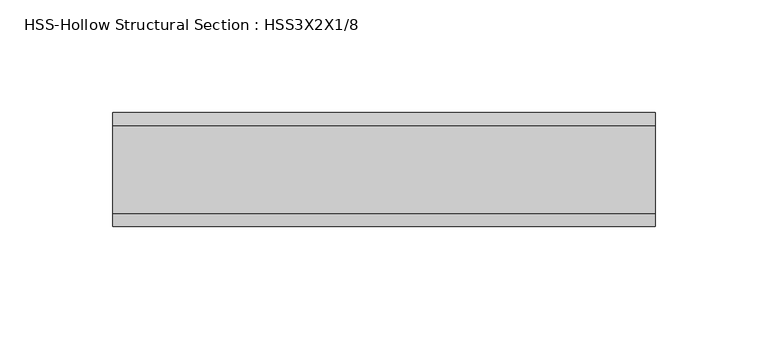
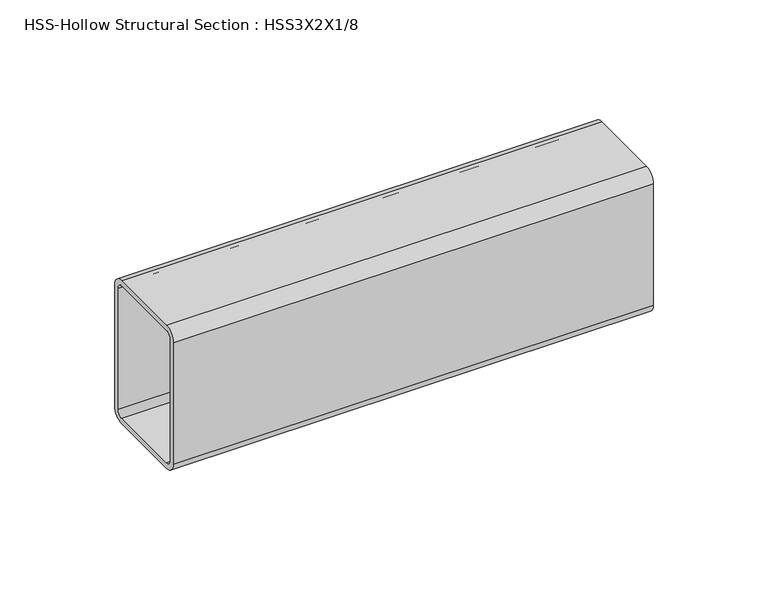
"""IFC4 building model written with IfcOpenShell, lengths in millimetres: beam geometry, HSS-Hollow Structural Section : HSS3X2X1/8."""

from ifc_helpers import new_model, si_unit, point, frame, frame_2d, origin, place, context, project, spatial, polyline, circle_curve, trimmed, segment, composite_curve, outline, extrude, source, transform, mapped, element, save


def hss_hollow_structural_section_hss3x2x1_8_a59be2b4(model_context):
    return source(origin(), model_context, "Body", "SweptSolid", [
        extrude(outline(composite_curve([segment(polyline([(25.4, 32.2072), (25.4, -32.2072)]), True, "CONTINUOUS"), segment(trimmed(circle_curve(frame_2d((19.5072, -32.2072)), 5.8928), [point((25.4, -32.2072))], [point((19.5072, -38.1))], False, "CARTESIAN"), True, "CONTINUOUS"), segment(polyline([(19.5072, -38.1), (-19.5072, -38.1)]), True, "CONTINUOUS"), segment(trimmed(circle_curve(frame_2d((-19.5072, -32.2072)), 5.8928), [point((-19.5072, -38.1))], [point((-25.4, -32.2072))], False, "CARTESIAN"), True, "CONTINUOUS"), segment(polyline([(-25.4, -32.2072), (-25.4, 32.2072)]), True, "CONTINUOUS"), segment(trimmed(circle_curve(frame_2d((-19.5072, 32.2072)), 5.8928), [point((-25.4, 32.2072))], [point((-19.5072, 38.1))], False, "CARTESIAN"), True, "CONTINUOUS"), segment(polyline([(-19.5072, 38.1), (19.5072, 38.1)]), True, "CONTINUOUS"), segment(trimmed(circle_curve(frame_2d((19.5072, 32.2072)), 5.8928), [point((19.5072, 38.1))], [point((25.4, 32.2072))], False, "CARTESIAN"), True, "CONTINUOUS")], self_intersect=False), holes=[composite_curve([segment(trimmed(circle_curve(frame_2d((-19.5072, 32.2072)), 2.9464), [point((-19.5072, 35.1536))], [point((-22.4536, 32.2072))], True, "CARTESIAN"), True, "CONTINUOUS"), segment(polyline([(-22.4536, 32.2072), (-22.4536, -32.2072)]), True, "CONTINUOUS"), segment(trimmed(circle_curve(frame_2d((-19.5072, -32.2072)), 2.9464), [point((-22.4536, -32.2072))], [point((-19.5072, -35.1536))], True, "CARTESIAN"), True, "CONTINUOUS"), segment(polyline([(-19.5072, -35.1536), (19.5072, -35.1536)]), True, "CONTINUOUS"), segment(trimmed(circle_curve(frame_2d((19.5072, -32.2072)), 2.9464), [point((19.5072, -35.1536))], [point((22.4536, -32.2072))], True, "CARTESIAN"), True, "CONTINUOUS"), segment(polyline([(22.4536, -32.2072), (22.4536, 32.2072)]), True, "CONTINUOUS"), segment(trimmed(circle_curve(frame_2d((19.5072, 32.2072)), 2.9464), [point((22.4536, 32.2072))], [point((19.5072, 35.1536))], True, "CARTESIAN"), True, "CONTINUOUS"), segment(polyline([(19.5072, 35.1536), (-19.5072, 35.1536)]), True, "CONTINUOUS")], self_intersect=False)]), frame((-101.6, 0.0, 0.0), z_axis=(1.0, 0.0, 0.0), x_axis=(0.0, 1.0, 0.0)), (0.0, 0.0, 1.0), 241.3),
    ])


if __name__ == "__main__":
    model = new_model("IFC4")
    model_context = context("Model", 3, world=origin())
    ifc_project = project(units=[si_unit("LENGTHUNIT", "METRE", prefix="MILLI")], contexts=[model_context])
    site = spatial("IfcSite", under=ifc_project)
    building = spatial("IfcBuilding", under=site)
    placement = place(None, origin())
    hss_hollow_structural_section_hss3x2x1_8_shape = hss_hollow_structural_section_hss3x2x1_8_a59be2b4(model_context)
    element("IfcBeam", 1, ObjectType="HSS-Hollow Structural Section : HSS3X2X1/8", at=placement, inside=building, context=model_context, shape_type="MappedRepresentation", body=[
        mapped(hss_hollow_structural_section_hss3x2x1_8_shape, transform((0.0, 0.0, 0.0), x_axis=(1.0, 0.0, 0.0), y_axis=(0.0, 1.0, 0.0), z_axis=(0.0, 0.0, 1.0))),
    ])
    save(model, "model.ifc")
